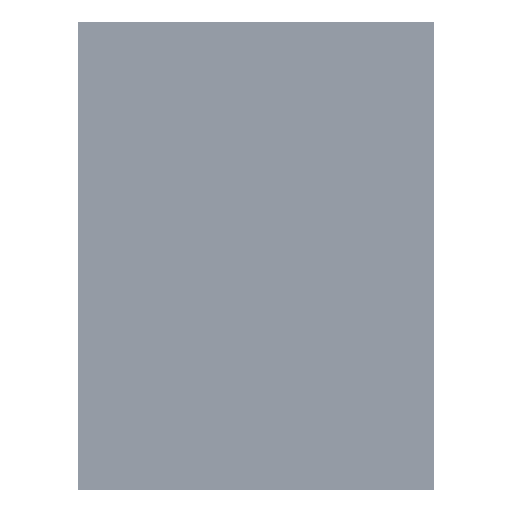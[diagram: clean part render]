
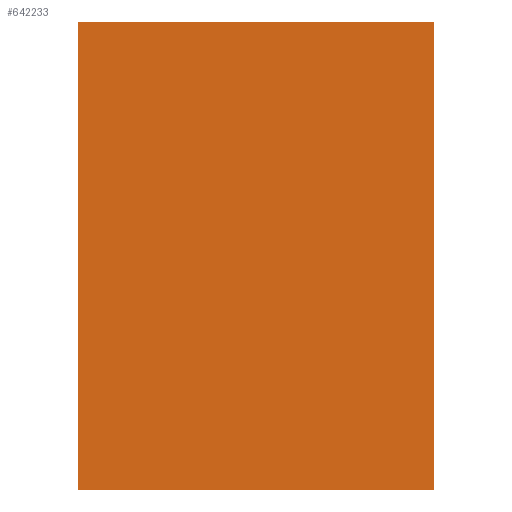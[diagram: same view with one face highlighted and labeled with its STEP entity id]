
A CAD part, front view. The second image highlights one B-rep face of the part: STEP entity #642233.
In plain terms, the highlighted planar face has unit normal (0, -1, 0) as drawn and (0, 0, -1) by its records, which use the part's own axes.
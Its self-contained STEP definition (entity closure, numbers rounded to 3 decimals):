
#642118=DIRECTION('',(0.,1.,0.));
#642119=VECTOR('',#642118,495.);
#642120=CARTESIAN_POINT('',(-325.,-247.5,-1250.));
#642121=LINE('',#642120,#642119);
#642122=DIRECTION('',(-1.,0.,0.));
#642123=VECTOR('',#642122,650.);
#642124=CARTESIAN_POINT('',(325.,-247.5,-1250.));
#642125=LINE('',#642124,#642123);
#642126=DIRECTION('',(0.,1.,0.));
#642127=VECTOR('',#642126,495.);
#642128=CARTESIAN_POINT('',(325.,-247.5,-1250.));
#642129=LINE('',#642128,#642127);
#642130=DIRECTION('',(-1.,0.,0.));
#642131=VECTOR('',#642130,650.);
#642132=CARTESIAN_POINT('',(325.,247.5,-1250.));
#642133=LINE('',#642132,#642131);
#642142=CARTESIAN_POINT('',(325.,-247.5,-1250.));
#642143=CARTESIAN_POINT('',(-325.,-247.5,-1250.));
#642144=VERTEX_POINT('',#642142);
#642145=VERTEX_POINT('',#642143);
#642146=CARTESIAN_POINT('',(325.,247.5,-1250.));
#642147=CARTESIAN_POINT('',(-325.,247.5,-1250.));
#642148=VERTEX_POINT('',#642146);
#642149=VERTEX_POINT('',#642147);
#642222=CARTESIAN_POINT('',(325.,-260.,-1250.));
#642223=DIRECTION('',(0.,0.,-1.));
#642224=DIRECTION('',(-1.,0.,0.));
#642225=AXIS2_PLACEMENT_3D('',#642222,#642223,#642224);
#642226=PLANE('',#642225);
#642227=ORIENTED_EDGE('',*,*,#642173,.F.);
#642228=ORIENTED_EDGE('',*,*,#642188,.T.);
#642229=ORIENTED_EDGE('',*,*,#642204,.T.);
#642230=ORIENTED_EDGE('',*,*,#642217,.F.);
#642231=EDGE_LOOP('',(#642227,#642228,#642229,#642230));
#642232=FACE_OUTER_BOUND('',#642231,.F.);
#642233=ADVANCED_FACE('',(#642232),#642226,.T.);
#642173=EDGE_CURVE('',#642144,#642145,#642125,.T.);
#642188=EDGE_CURVE('',#642144,#642148,#642129,.T.);
#642204=EDGE_CURVE('',#642148,#642149,#642133,.T.);
#642217=EDGE_CURVE('',#642145,#642149,#642121,.T.);
